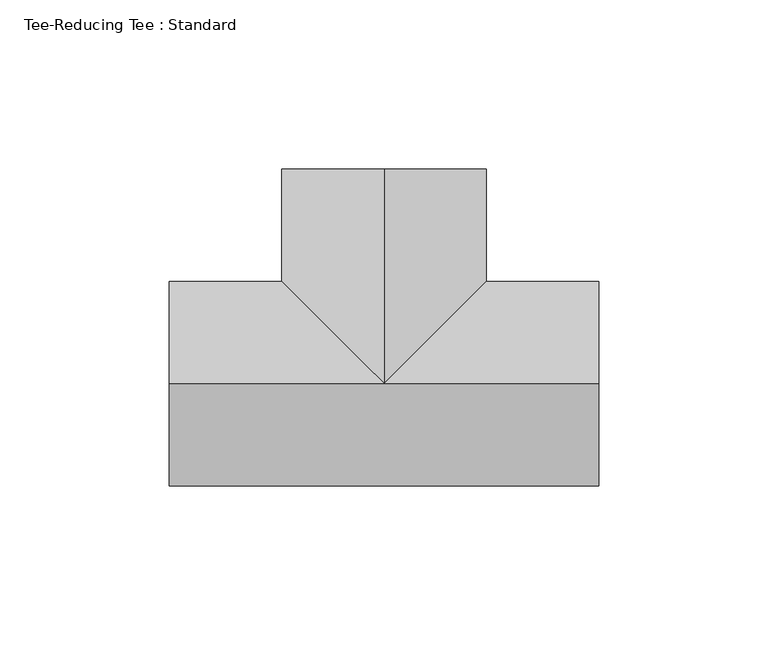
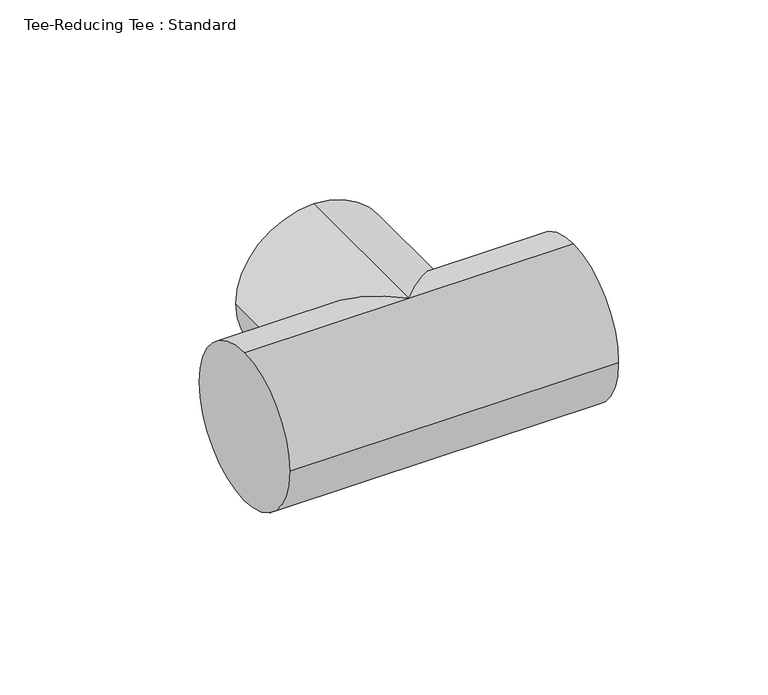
"""IFC4 building model written with IfcOpenShell, lengths in millimetres: pipe fitting geometry, Tee-Reducing Tee : Standard."""

import ifcopenshell
import ifcopenshell.guid

model = None  # the IFC model being written
_history = None  # IfcOwnerHistory: only IFC2X3 demands one
_inside = {}  # id of a spatial element -> (the spatial element, [elements in it])
_under = {}  # id of a project, library or spatial element -> (it, [spatial elements below it])
_declared = {}  # id of a project -> (the project, [libraries it declares])
_typed = {}  # id of a type object -> (the type object, [elements of that type])
_made_of = {}  # id of a material, layer set ... -> (it, [elements and type objects made of it])


def new_model(schema):
    """Start an empty IFC model of exactly this schema.

    Asked for "IFC4X3", IfcOpenShell would pick the latest addendum, in which some entities
    have other attributes; the version numbers below select the first issue.
    IFC2X3 requires an IfcOwnerHistory on every rooted entity: one is made here for all.
    """
    global model, _history
    if schema == "IFC4X3":
        model = ifcopenshell.file(schema_version=(4, 3, 0, 0))
    else:
        model = ifcopenshell.file(schema=schema)
    _inside.clear()
    _under.clear()
    _declared.clear()
    _typed.clear()
    _made_of.clear()
    _history = None
    if model.schema == "IFC2X3":
        org = make("IfcOrganization", Name="unknown")
        user = make(
            "IfcPersonAndOrganization",
            ThePerson=make("IfcPerson", FamilyName="unknown"),
            TheOrganization=org,
        )
        app = make(
            "IfcApplication",
            ApplicationDeveloper=org,
            Version="unknown",
            ApplicationFullName="unknown",
            ApplicationIdentifier="unknown",
        )
        _history = make(
            "IfcOwnerHistory",
            OwningUser=user,
            OwningApplication=app,
            ChangeAction="ADDED",
            CreationDate=0,
        )
    return model


def make(cls, **values):
    """One entity of the class cls with the attributes given. An attribute that is None is left unset."""
    return model.create_entity(
        cls, **{name: value for name, value in values.items() if value is not None}
    )


def rooted(cls, **values):
    """An entity with a GlobalId (a new one), such as an element, a storey or a relation."""
    return make(cls, GlobalId=ifcopenshell.guid.new(), OwnerHistory=_history, **values)


def si_unit(unit_type, name, prefix=None):
    """IfcSIUnit, for example si_unit("LENGTHUNIT", "METRE", prefix="MILLI")."""
    return make("IfcSIUnit", UnitType=unit_type, Prefix=prefix, Name=name)


def assignment(units):
    """IfcUnitAssignment: the units of a project."""
    return None if units is None else make("IfcUnitAssignment", Units=units)


def point(xyz):
    """IfcCartesianPoint."""
    return None if xyz is None else make("IfcCartesianPoint", Coordinates=xyz)


def direction(xyz):
    """IfcDirection."""
    return None if xyz is None else make("IfcDirection", DirectionRatios=xyz)


def frame(location, z_axis=None, x_axis=None):
    """IfcAxis2Placement3D, a coordinate frame: its origin and axes. An axis left out is left unset."""
    return make(
        "IfcAxis2Placement3D",
        Location=point(location),
        Axis=direction(z_axis),
        RefDirection=direction(x_axis),
    )


def origin():
    """The frame at (0, 0, 0) with its axes left unset."""
    return frame((0.0, 0.0, 0.0))


def place(relative_to, where):
    """IfcLocalPlacement: puts the frame where relative to a parent placement (None: the world)."""
    return make(
        "IfcLocalPlacement", PlacementRelTo=relative_to, RelativePlacement=where
    )


def context(
    kind, dimensions, precision=None, world=None, true_north=None, identifier=None
):
    """IfcGeometricRepresentationContext, for example the 3D "Model" context."""
    return make(
        "IfcGeometricRepresentationContext",
        ContextIdentifier=identifier,
        ContextType=kind,
        CoordinateSpaceDimension=dimensions,
        Precision=precision,
        WorldCoordinateSystem=world,
        TrueNorth=true_north,
    )


def project(units=None, contexts=None):
    """IfcProject with its units and contexts."""
    return rooted(
        "IfcProject",
        Name="project",
        RepresentationContexts=contexts,
        UnitsInContext=assignment(units),
    )


def spatial(cls, under=None, at=None, **own):
    """A site, building, storey or space (cls), placed at a placement, below another one or the project."""
    s = rooted(cls, ObjectPlacement=at, **own)
    if under is not None:
        _under.setdefault(under.id(), (under, []))[1].append(s)
    return s


def circle_curve(where, radius):
    """IfcCircle in the frame where."""
    return make("IfcCircle", Position=where, Radius=radius)


def ellipse_curve(where, semi_axis1, semi_axis2):
    """IfcEllipse in the frame where."""
    return make(
        "IfcEllipse", Position=where, SemiAxis1=semi_axis1, SemiAxis2=semi_axis2
    )


def shape(context_of_items, identifier, shape_type, items):
    """IfcShapeRepresentation: the items that make up one representation, for example the "Body"."""
    return make(
        "IfcShapeRepresentation",
        ContextOfItems=context_of_items,
        RepresentationIdentifier=identifier,
        RepresentationType=shape_type,
        Items=items,
    )


def source(mapping_origin, context_of_items, identifier, shape_type, items):
    """IfcRepresentationMap: a shape defined once, which mapped items show again and again."""
    return make(
        "IfcRepresentationMap",
        MappingOrigin=mapping_origin,
        MappedRepresentation=shape(context_of_items, identifier, shape_type, items),
    )


def transform(
    local_origin,
    x_axis=None,
    y_axis=None,
    z_axis=None,
    scale=None,
    scale2=None,
    scale3=None,
    uniform=True,
):
    """IfcCartesianTransformationOperator3D, or its non-uniform kind. x_axis, y_axis, z_axis: its Axis1, 2, 3."""
    if uniform:
        return make(
            "IfcCartesianTransformationOperator3D",
            Axis1=direction(x_axis),
            Axis2=direction(y_axis),
            LocalOrigin=point(local_origin),
            Scale=scale,
            Axis3=direction(z_axis),
        )
    return make(
        "IfcCartesianTransformationOperator3DnonUniform",
        Axis1=direction(x_axis),
        Axis2=direction(y_axis),
        LocalOrigin=point(local_origin),
        Scale=scale,
        Axis3=direction(z_axis),
        Scale2=scale2,
        Scale3=scale3,
    )


def mapped(mapping_source, mapping_target):
    """IfcMappedItem: shows the shape of a source again, moved by a transform."""
    return make(
        "IfcMappedItem", MappingSource=mapping_source, MappingTarget=mapping_target
    )


def made_of(thing, what):
    """Note that an element or type object is made of a material, layer set ...; save() writes the relation."""
    if what is not None:
        _made_of.setdefault(what.id(), (what, []))[1].append(thing)
    return thing


def element(
    cls,
    number,
    at=None,
    inside=None,
    cuts=None,
    type_object=None,
    material=None,
    context=None,
    identifier="Body",
    shape_type=None,
    held_by="IfcProductDefinitionShape",
    body=None,
    shapes=None,
    **own,
):
    """One element of the class cls, such as IfcWall. Its Tag is "e" and its number.

    at: its placement. inside: the storey or other place that contains it. cuts: it is an
    opening in that element (IfcRelVoidsElement). A single representation is given by context,
    identifier, shape_type and body (its items); several are given by shapes. held_by: the class
    of the entity that holds the representations. save() writes the other relations.
    """
    e = rooted(cls, Tag="e%d" % number, ObjectPlacement=at, **own)
    if body is not None:
        shapes = [shape(context, identifier, shape_type, body)]
    if shapes is not None:
        e.Representation = make(held_by, Representations=shapes)
    if inside is not None:
        _inside.setdefault(inside.id(), (inside, []))[1].append(e)
    if cuts is not None:
        rooted(
            "IfcRelVoidsElement", RelatingBuildingElement=cuts, RelatedOpeningElement=e
        )
    if type_object is not None:
        _typed.setdefault(type_object.id(), (type_object, []))[1].append(e)
    return made_of(e, material)


def aggregate(whole, parts):
    """IfcRelAggregates: a whole, such as a stair, and the parts it consists of."""
    return rooted("IfcRelAggregates", RelatingObject=whole, RelatedObjects=parts)


def save(model, path):
    """Write the relations noted so far, then the file.

    IfcRelAggregates (storeys below a building ...), IfcRelContainedInSpatialStructure (elements
    in a storey), IfcRelDefinesByType, IfcRelAssociatesMaterial and IfcRelDeclares: one each for
    every whole, place, type object, material and project.
    """
    for whole, parts in _under.values():
        aggregate(whole, parts)
    for where, things in _inside.values():
        rooted(
            "IfcRelContainedInSpatialStructure",
            RelatedElements=things,
            RelatingStructure=where,
        )
    for kind, things in _typed.values():
        rooted("IfcRelDefinesByType", RelatedObjects=things, RelatingType=kind)
    for what, things in _made_of.values():
        rooted("IfcRelAssociatesMaterial", RelatedObjects=things, RelatingMaterial=what)
    for by, libraries in _declared.values():
        rooted("IfcRelDeclares", RelatingContext=by, RelatedDefinitions=libraries)
    model.write(path)


def plane_surface(at):
    """IfcPlane: the flat surface through the origin of the frame at, square to its z axis."""
    return make("IfcPlane", Position=at)


def cylinder_surface(at, radius):
    """IfcCylindricalSurface: all points at the distance radius from the z axis of the frame at."""
    return make("IfcCylindricalSurface", Position=at, Radius=radius)


def advanced_brep(points, edges, surfaces, faces):
    """IfcAdvancedBrep: a solid bounded by faces that lie on surfaces and meet in shared edges.

    An edge is (start, end): straight between two places in points (the first is 0);
    or (start, end, curve); or (start, end, curve, False) where it runs against its curve.
    A face is (place in surfaces, loops), or (place, loops, False) where it looks against
    its surface's normal. A loop lists edges by number (the first is 1), with a minus sign
    where the edge is run from its end to its start. The first loop is the outer one.
    """
    corners = [point(p) for p in points]
    vertices = [make("IfcVertexPoint", VertexGeometry=c) for c in corners]
    made = []
    for start, end, *more in edges:
        made.append(
            make(
                "IfcEdgeCurve",
                EdgeStart=vertices[start],
                EdgeEnd=vertices[end],
                EdgeGeometry=more[0] if more else make("IfcPolyline", Points=[corners[start], corners[end]]),
                SameSense=more[1] if len(more) > 1 else True,
            )
        )
    hull = []
    for where, loops, *sense in faces:
        bounds = []
        for j, loop in enumerate(loops):
            ring = [make("IfcOrientedEdge", EdgeElement=made[abs(k) - 1], Orientation=k > 0) for k in loop]
            bounds.append(
                make(
                    "IfcFaceOuterBound" if j == 0 else "IfcFaceBound",
                    Bound=make("IfcEdgeLoop", EdgeList=ring),
                    Orientation=True,
                )
            )
        hull.append(make("IfcAdvancedFace", Bounds=bounds, FaceSurface=surfaces[where], SameSense=sense[0] if sense else True))
    return make("IfcAdvancedBrep", Outer=make("IfcClosedShell", CfsFaces=hull))


def tee_reducing_tee_standard_5da22881(model_context):
    return source(origin(), model_context, "Body", "AdvancedBrep", [
        advanced_brep(
        [(-41.4746149, 0.0, 30.1625), (-41.4746149, 30.1625, 0.0), (-41.4746149, 0.0, -30.1625), (-41.4746149, -30.1625, 0.0), (85.5253851, 0.0, 30.1625), (85.5253851, -30.1625, 0.0), (85.5253851, 0.0, -30.1625), (85.5253851, 30.1625, 0.0), (22.0253851, 0.0, 30.1625), (-8.1371149, 30.1625, 0.0), (52.1878851, 30.1625, 0.0), (22.0253851, 0.0, -30.1625), (22.0253851, 63.5, 30.1625), (52.1878851, 63.5, 0.0), (22.0253851, 63.5, -30.1625), (-8.1371149, 63.5, 0.0)],
        [
            (0, 1, circle_curve(frame((-41.4746149, 0.0, 0.0), z_axis=(-1.0, 0.0, 0.0), x_axis=(0.0, 1.0, 0.0)), 30.1625)),
            (1, 2, circle_curve(frame((-41.4746149, 0.0, 0.0), z_axis=(-1.0, 0.0, 0.0), x_axis=(0.0, 1.0, 0.0)), 30.1625)),
            (2, 3, circle_curve(frame((-41.4746149, 0.0, 0.0), z_axis=(-1.0, 0.0, 0.0), x_axis=(0.0, 1.0, 0.0)), 30.1625)),
            (3, 0, circle_curve(frame((-41.4746149, 0.0, 0.0), z_axis=(-1.0, 0.0, 0.0), x_axis=(0.0, 1.0, 0.0)), 30.1625)),
            (4, 5, circle_curve(frame((85.5253851, 0.0, 0.0), z_axis=(1.0, 0.0, 0.0), x_axis=(0.0, 1.0, 0.0)), 30.1625)),
            (5, 6, circle_curve(frame((85.5253851, 0.0, 0.0), z_axis=(1.0, 0.0, 0.0), x_axis=(0.0, 1.0, 0.0)), 30.1625)),
            (6, 7, circle_curve(frame((85.5253851, 0.0, 0.0), z_axis=(1.0, 0.0, 0.0), x_axis=(0.0, 1.0, 0.0)), 30.1625)),
            (7, 4, circle_curve(frame((85.5253851, 0.0, 0.0), z_axis=(1.0, 0.0, 0.0), x_axis=(0.0, 1.0, 0.0)), 30.1625)),
            (0, 8),
            (8, 9, ellipse_curve(frame((22.0253851, 0.0, 0.0), z_axis=(-0.7071067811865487, -0.7071067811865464, 0.0), x_axis=(-0.7071067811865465, 0.7071067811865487, 0.0)), 42.6562166, 30.1625)),
            (9, 1),
            (7, 10),
            (10, 8, ellipse_curve(frame((22.0253851, 0.0, 0.0), z_axis=(0.7071067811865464, -0.7071067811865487, 0.0), x_axis=(-0.7071067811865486, -0.7071067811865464, 0.0)), 42.6562166, 30.1625)),
            (8, 4),
            (9, 11, ellipse_curve(frame((22.0253851, 0.0, 0.0), z_axis=(-0.7071067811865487, -0.7071067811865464, 0.0), x_axis=(-0.7071067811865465, 0.7071067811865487, 0.0)), 42.6562166, 30.1625)),
            (11, 2),
            (6, 11),
            (11, 10, ellipse_curve(frame((22.0253851, 0.0, 0.0), z_axis=(0.7071067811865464, -0.7071067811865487, 0.0), x_axis=(-0.7071067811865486, -0.7071067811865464, 0.0)), 42.6562166, 30.1625)),
            (5, 3),
            (12, 13, circle_curve(frame((22.0253851, 63.5, 0.0), z_axis=(0.0, 1.0, 0.0), x_axis=(-1.0, 0.0, 0.0)), 30.1625)),
            (13, 14, circle_curve(frame((22.0253851, 63.5, 0.0), z_axis=(0.0, 1.0, 0.0), x_axis=(-1.0, 0.0, 0.0)), 30.1625)),
            (14, 15, circle_curve(frame((22.0253851, 63.5, 0.0), z_axis=(0.0, 1.0, 0.0), x_axis=(-1.0, 0.0, 0.0)), 30.1625)),
            (15, 12, circle_curve(frame((22.0253851, 63.5, 0.0), z_axis=(0.0, 1.0, 0.0), x_axis=(-1.0, 0.0, 0.0)), 30.1625)),
            (15, 9),
            (8, 12),
            (14, 11),
            (13, 10),
        ],
        [
            plane_surface(frame((-41.4746149, 0.0, 0.0), z_axis=(-1.0, 0.0, 0.0), x_axis=(0.0, 0.0, 1.0))),
            plane_surface(frame((85.5253851, 0.0, 0.0), z_axis=(1.0, 0.0, 0.0), x_axis=(0.0, 0.0, 1.0))),
            cylinder_surface(frame((-41.4746149, 0.0, 0.0), z_axis=(-1.0, 0.0, 0.0), x_axis=(0.0, 1.0, 0.0)), 30.1625),
            plane_surface(frame((22.0253851, 63.5, 0.0), z_axis=(0.0, 1.0, 0.0), x_axis=(0.0, 0.0, 1.0))),
            cylinder_surface(frame((22.0253851, 0.0, 0.0), z_axis=(0.0, -1.0, 0.0), x_axis=(-1.0, 0.0, 0.0)), 30.1625),
        ],
        [
            (0, [[1, 2, 3, 4]]),
            (1, [[5, 6, 7, 8]]),
            (2, [[-1, 9, 10, 11]]),
            (2, [[-8, 12, 13, 14]]),
            (2, [[-2, -11, 15, 16]]),
            (2, [[-7, 17, 18, -12]]),
            (2, [[-3, -16, -17, -6, 19]]),
            (2, [[-4, -19, -5, -14, -9]]),
            (3, [[20, 21, 22, 23]]),
            (4, [[-23, 24, -10, 25]]),
            (4, [[-22, 26, -15, -24]]),
            (4, [[-21, 27, -18, -26]]),
            (4, [[-20, -25, -13, -27]]),
        ],
    ),
    ])


if __name__ == "__main__":
    model = new_model("IFC4")
    model_context = context("Model", 3, world=origin())
    ifc_project = project(units=[si_unit("LENGTHUNIT", "METRE", prefix="MILLI")], contexts=[model_context])
    site = spatial("IfcSite", under=ifc_project)
    building = spatial("IfcBuilding", under=site)
    placement = place(None, origin())
    tee_reducing_tee_standard_shape = tee_reducing_tee_standard_5da22881(model_context)
    element("IfcPipeFitting", 1, ObjectType="Tee-Reducing Tee : Standard", at=placement, inside=building, context=model_context, shape_type="MappedRepresentation", body=[
        mapped(tee_reducing_tee_standard_shape, transform((0.0, 0.0, 0.0), x_axis=(1.0, 0.0, 0.0), y_axis=(0.0, 1.0, 0.0), z_axis=(0.0, 0.0, 1.0))),
    ])
    save(model, "model.ifc")
